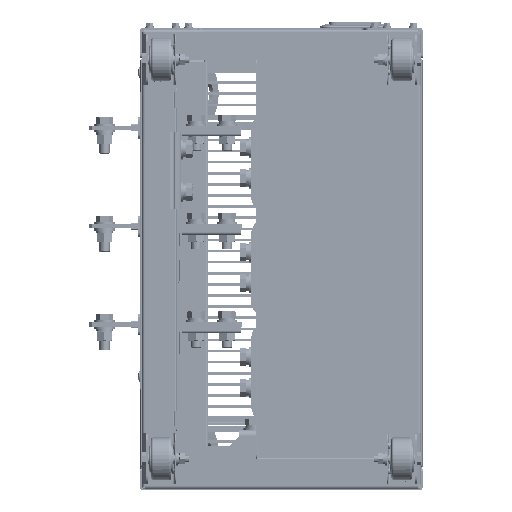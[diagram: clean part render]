
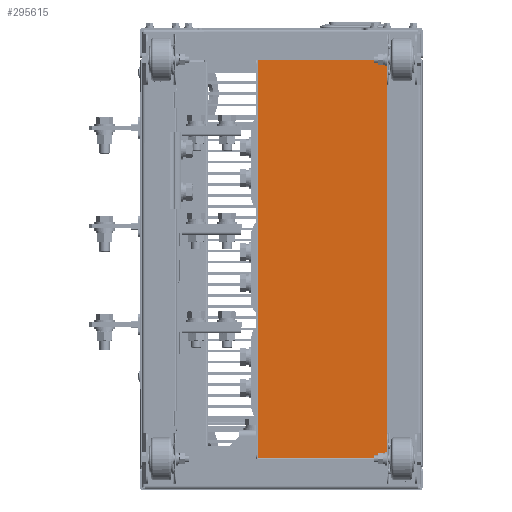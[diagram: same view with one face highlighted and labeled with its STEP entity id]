
A CAD part, front view. The second image highlights one B-rep face of the part: STEP entity #295615.
In plain terms, the highlighted planar face has unit normal (0, -1, 0) as drawn and (0, 1, 0) by its records, which use the part's own axes.
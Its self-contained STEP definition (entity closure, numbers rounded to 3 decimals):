
#293649=CARTESIAN_POINT('',(152.5,0.,233.));
#293654=DIRECTION('',(0.,0.,-1.));
#293655=VECTOR('',#293654,466.);
#293656=CARTESIAN_POINT('',(152.5,0.,233.));
#293657=LINE('',#293656,#293655);
#293688=DIRECTION('',(0.,0.,1.));
#293689=VECTOR('',#293688,466.);
#293690=CARTESIAN_POINT('',(0.5,0.,-233.));
#293691=LINE('',#293690,#293689);
#293801=DIRECTION('',(1.,0.,0.));
#293802=VECTOR('',#293801,152.);
#293803=CARTESIAN_POINT('',(0.5,0.,233.));
#293804=LINE('',#293803,#293802);
#294337=DIRECTION('',(-1.,0.,0.));
#294338=VECTOR('',#294337,152.);
#294339=CARTESIAN_POINT('',(152.5,0.,-233.));
#294340=LINE('',#294339,#294338);
#295241=VERTEX_POINT('',#293649);
#295243=CARTESIAN_POINT('',(152.5,0.,-233.));
#295244=VERTEX_POINT('',#295243);
#295245=CARTESIAN_POINT('',(0.5,0.,-233.));
#295246=CARTESIAN_POINT('',(0.5,0.,233.));
#295247=VERTEX_POINT('',#295245);
#295248=VERTEX_POINT('',#295246);
#295601=CARTESIAN_POINT('',(0.,0.,0.));
#295602=DIRECTION('',(0.,1.,0.));
#295603=DIRECTION('',(1.,0.,0.));
#295604=AXIS2_PLACEMENT_3D('',#295601,#295602,#295603);
#295605=PLANE('',#295604);
#295607=ORIENTED_EDGE('',*,*,#295606,.F.);
#295609=ORIENTED_EDGE('',*,*,#295608,.F.);
#295610=ORIENTED_EDGE('',*,*,#295594,.F.);
#295612=ORIENTED_EDGE('',*,*,#295611,.F.);
#295613=EDGE_LOOP('',(#295607,#295609,#295610,#295612));
#295614=FACE_OUTER_BOUND('',#295613,.F.);
#295594=EDGE_CURVE('',#295241,#295244,#293657,.T.);
#295606=EDGE_CURVE('',#295247,#295248,#293691,.T.);
#295608=EDGE_CURVE('',#295244,#295247,#294340,.T.);
#295611=EDGE_CURVE('',#295248,#295241,#293804,.T.);
#295615=ADVANCED_FACE('',(#295614),#295605,.T.);
